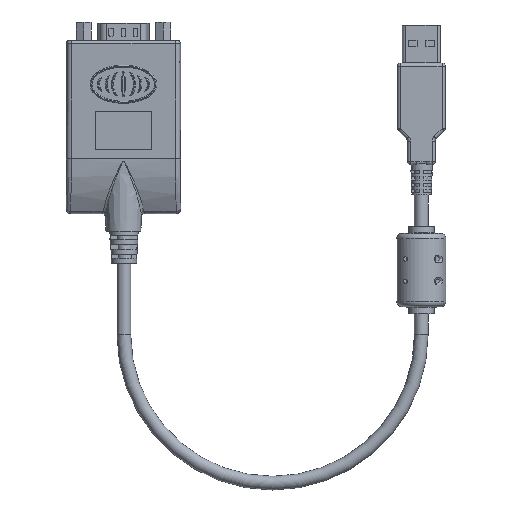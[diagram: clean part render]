
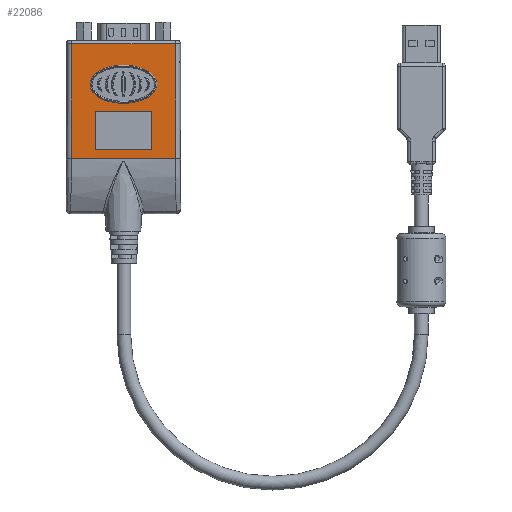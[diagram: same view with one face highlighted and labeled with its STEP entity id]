
A CAD part, front view. The second image highlights one B-rep face of the part: STEP entity #22086.
In plain terms, the highlighted planar face has unit normal (0, -0.999, -0.043).
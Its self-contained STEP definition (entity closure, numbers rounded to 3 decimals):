
#356=FACE_BOUND('',#3623,.T.);
#357=FACE_BOUND('',#3624,.T.);
#564=ELLIPSE('',#23893,10.5,6.);
#939=PLANE('',#23895);
#2267=FACE_OUTER_BOUND('',#3622,.T.);
#3622=EDGE_LOOP('',(#18670,#18671,#18672,#18673));
#3623=EDGE_LOOP('',(#18674,#18675,#18676,#18677));
#3624=EDGE_LOOP('',(#18678));
#6472=LINE('',#44113,#8053);
#6476=LINE('',#44121,#8057);
#6479=LINE('',#44127,#8060);
#6482=LINE('',#44132,#8063);
#6582=LINE('',#47268,#8163);
#6583=LINE('',#47270,#8164);
#6584=LINE('',#47272,#8165);
#6585=LINE('',#47273,#8166);
#8053=VECTOR('',#27923,10.);
#8057=VECTOR('',#27929,10.);
#8060=VECTOR('',#27934,10.);
#8063=VECTOR('',#27939,10.);
#8163=VECTOR('',#28349,10.);
#8164=VECTOR('',#28350,10.);
#8165=VECTOR('',#28351,10.);
#8166=VECTOR('',#28352,10.);
#10041=VERTEX_POINT('',#44111);
#10042=VERTEX_POINT('',#44112);
#10045=VERTEX_POINT('',#44120);
#10047=VERTEX_POINT('',#44126);
#10220=VERTEX_POINT('',#46634);
#10229=VERTEX_POINT('',#47266);
#10230=VERTEX_POINT('',#47267);
#10231=VERTEX_POINT('',#47269);
#10232=VERTEX_POINT('',#47271);
#12838=EDGE_CURVE('',#10041,#10042,#6472,.T.);
#12842=EDGE_CURVE('',#10045,#10041,#6476,.T.);
#12845=EDGE_CURVE('',#10047,#10045,#6479,.T.);
#12848=EDGE_CURVE('',#10042,#10047,#6482,.T.);
#13135=EDGE_CURVE('',#10220,#10220,#564,.T.);
#13158=EDGE_CURVE('',#10229,#10230,#6582,.T.);
#13159=EDGE_CURVE('',#10231,#10229,#6583,.T.);
#13160=EDGE_CURVE('',#10232,#10231,#6584,.T.);
#13161=EDGE_CURVE('',#10230,#10232,#6585,.T.);
#18670=ORIENTED_EDGE('',*,*,#13158,.F.);
#18671=ORIENTED_EDGE('',*,*,#13159,.F.);
#18672=ORIENTED_EDGE('',*,*,#13160,.F.);
#18673=ORIENTED_EDGE('',*,*,#13161,.F.);
#18674=ORIENTED_EDGE('',*,*,#12838,.T.);
#18675=ORIENTED_EDGE('',*,*,#12848,.T.);
#18676=ORIENTED_EDGE('',*,*,#12845,.T.);
#18677=ORIENTED_EDGE('',*,*,#12842,.T.);
#18678=ORIENTED_EDGE('',*,*,#13135,.T.);
#22086=ADVANCED_FACE('',(#2267,#356,#357),#939,.F.);
#23893=AXIS2_PLACEMENT_3D('',#46636,#28343,#28344);
#23895=AXIS2_PLACEMENT_3D('',#47265,#28347,#28348);
#27923=DIRECTION('',(0.,0.043,-0.999));
#27929=DIRECTION('',(1.,0.,0.));
#27934=DIRECTION('',(0.,-0.043,0.999));
#27939=DIRECTION('',(-1.,0.,0.));
#28343=DIRECTION('center_axis',(0.,0.999,
0.043));
#28344=DIRECTION('ref_axis',(-1.,0.,0.));
#28347=DIRECTION('center_axis',(0.,0.999,
0.043));
#28348=DIRECTION('ref_axis',(0.,0.043,-0.999));
#28349=DIRECTION('',(1.,0.,0.));
#28350=DIRECTION('',(0.002,-0.043,0.999));
#28351=DIRECTION('',(-1.,0.,0.));
#28352=DIRECTION('',(0.002,0.043,-0.999));
#44111=CARTESIAN_POINT('',(8.875,-7.141,-22.179));
#44112=CARTESIAN_POINT('',(8.875,-6.622,-34.168));
#44113=CARTESIAN_POINT('',(8.875,-7.62,-11.09));
#44120=CARTESIAN_POINT('',(-8.875,-7.141,-22.179));
#44121=CARTESIAN_POINT('',(-4.438,-7.141,-22.179));
#44126=CARTESIAN_POINT('',(-8.875,-6.622,-34.168));
#44127=CARTESIAN_POINT('',(-8.875,-7.361,-17.084));
#44132=CARTESIAN_POINT('',(4.437,-6.622,-34.168));
#46634=CARTESIAN_POINT('',(10.5,-7.506,-13.737));
#46636=CARTESIAN_POINT('Origin',(0.,-7.506,
-13.737));
#47265=CARTESIAN_POINT('Origin',(0.,-8.1,0.));
#47266=CARTESIAN_POINT('',(-16.367,-8.055,-1.043));
#47267=CARTESIAN_POINT('',(16.367,-8.055,-1.043));
#47268=CARTESIAN_POINT('',(0.,-8.055,-1.043));
#47269=CARTESIAN_POINT('',(-16.421,-6.5,-37.));
#47270=CARTESIAN_POINT('',(-16.365,-8.093,-0.164));
#47271=CARTESIAN_POINT('',(16.421,-6.5,-37.));
#47272=CARTESIAN_POINT('',(0.,-6.5,-37.));
#47273=CARTESIAN_POINT('',(16.365,-8.1,0.011));
